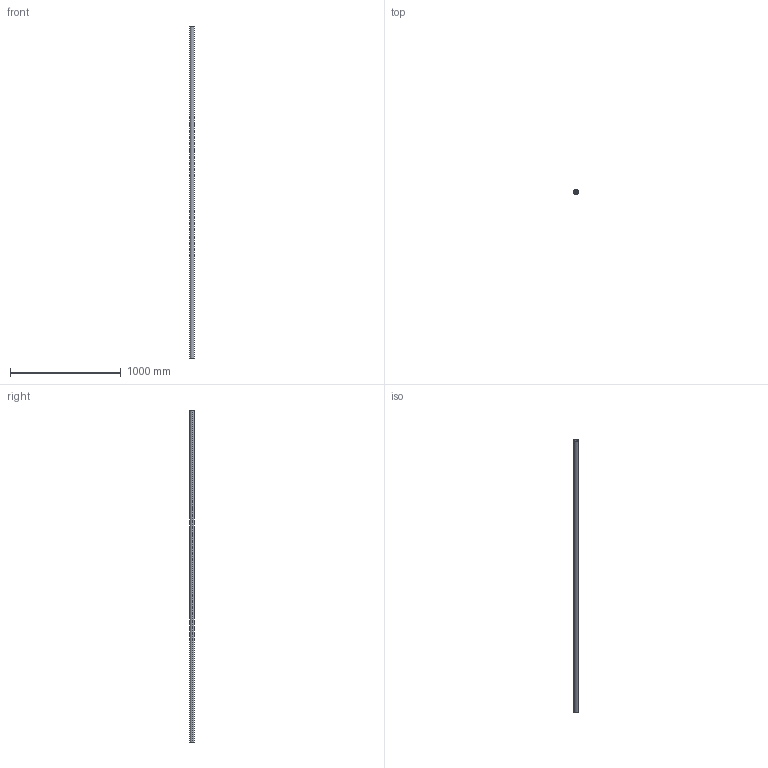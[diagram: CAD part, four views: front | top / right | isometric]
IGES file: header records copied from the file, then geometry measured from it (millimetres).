
Start section: SolidWorks IGES file using analytic representation for surfaces
Global section: file name: C:\Users\IanO\Desktop\L1771_v2\L1771.40_v2\L1771.40_v2_20230705_IGES\L1771.40-3000.igs; native system: SolidWorks 2019; preprocessor: SolidWorks 2019; author: IanO; date: 230705.161615; units: millimetre
Bounding box: 40 x 40 x 3000 mm (x, y, z)
Surface area: 642166.7 mm2 (no closed solid volume)
Topology: 0 solids, 0 shells, 6 faces, 272 edges, 272 vertices
Faces by surface type: revolution 4, bspline 2
